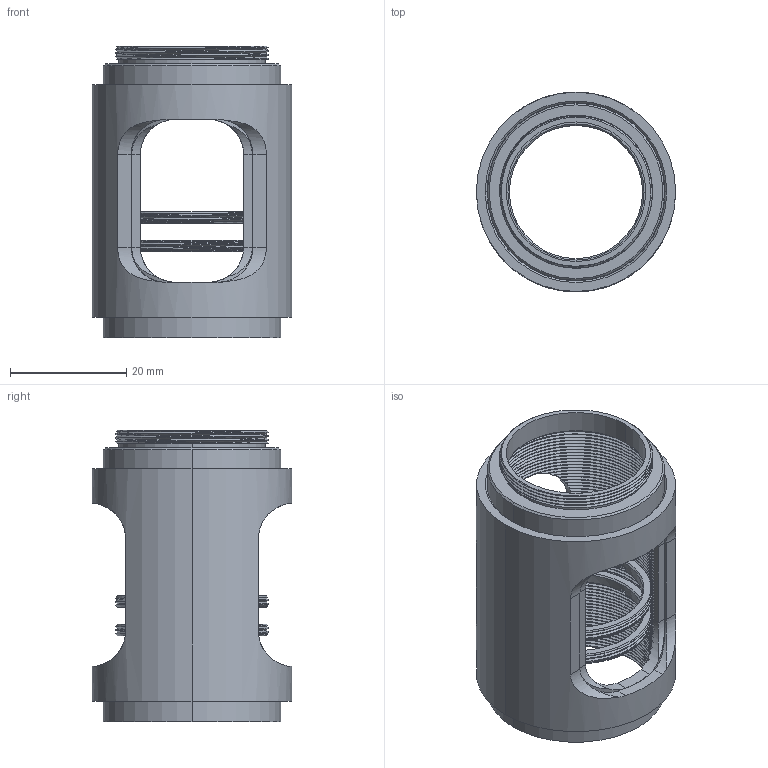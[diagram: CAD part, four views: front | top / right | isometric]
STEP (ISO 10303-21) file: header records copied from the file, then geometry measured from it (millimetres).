
FILE_DESCRIPTION((''),'2;1');
FILE_NAME('CSA-40CL2_ASM','2021-03-09T',('Administrator'),(''),'CREO PARAMETRIC BY PTC INC, 2015290','CREO PARAMETRIC BY PTC INC, 2015290','');
FILE_SCHEMA(('CONFIG_CONTROL_DESIGN'));
Products named in the file (4): CSK3; CSA-40CL2_A2; CSA-40CL2_A1; CSA-40CL2_ASM
Assembly tree (4 placements, depth 2):
  CSA-40CL2_ASM
    CSK3  x2
    CSA-40CL2_A2
    CSA-40CL2_A1
Bounding box: 34.29 x 34.29 x 50.16 mm (x, y, z)
Volume: 11566.3 mm3; surface area: 17021 mm2
Topology: 4 solids, 4 shells, 538 faces, 1504 edges, 982 vertices
Faces by surface type: bspline 221, cylinder 218, plane 66, cone 33
Entity records: 77736 total; most frequent: CARTESIAN_POINT 67184, ORIENTED_EDGE 2816, EDGE_CURVE 1408, DIRECTION 1125, B_SPLINE_CURVE_WITH_KNOTS 980, VERTEX_POINT 922, EDGE_LOOP 524, FACE_OUTER_BOUND 501
